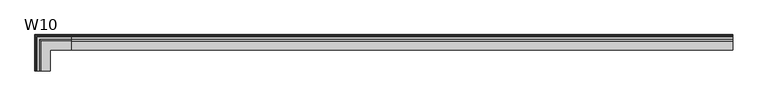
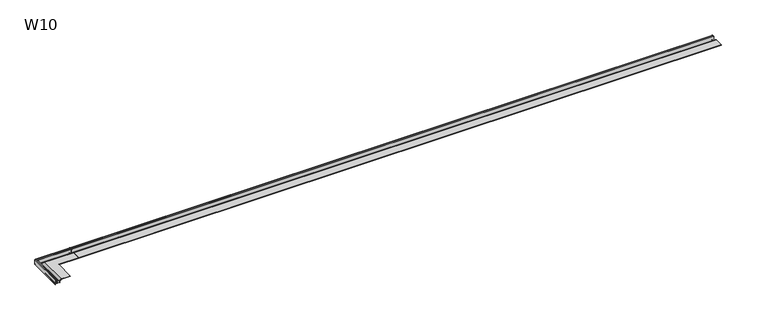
"""IFC4 building model written with IfcOpenShell, lengths in millimetres: proxy geometry, W10 Profil okapowy prosty : W10."""

from ifc_helpers import new_model, si_unit, point, frame, frame_2d, origin, place, context, project, spatial, polyline, circle_curve, ellipse_curve, trimmed, segment, composite_curve, outline, extrude, source, transform, mapped, element, save
from ifc_brep_helpers import plane_surface, cylinder_surface, revolved_surface, advanced_brep


def w10_debb7198(model_context):
    return source(origin(), model_context, "Body", "SolidModel", [
        advanced_brep(
        [(210.0, 44.56, -27.6922578), (210.0, 44.56, 9.4246509), (210.0, 43.1073683, 11.223413), (210.0, 42.8536246, 10.034885), (210.0, 43.3599998, 9.4089901), (210.0, 43.3599998, -1.26), (210.0, 40.9599998, -1.26), (210.0, 40.9599998, -2.62), (210.0, 43.3599998, -2.62), (210.0, 43.3599998, -15.6), (210.0, 40.7999998, -15.6), (210.0, 40.7999998, -16.8), (210.0, 43.3599998, -16.8), (210.0, 43.3599998, -20.0), (210.0, 32.3999998, -20.0), (210.0, 32.3999998, 8.6705848), (210.0, 31.1999998, 8.6705848), (210.0, 31.1999998, -20.0), (210.0, 12.3999998, -20.0), (210.0, 12.3999998, -13.6), (210.0, -1.2000002, 0.0), (210.0, -63.8400002, 0.0), (210.0, -63.8400002, -1.92), (210.0, 0.1599998, -1.92), (210.0, 0.1599998, -5.76), (210.0, 1.1999998, -5.76), (210.0, 1.1999998, -2.1733833), (210.0, 10.4799998, -13.6), (210.0, 10.4799998, -24.3057388), (210.0, 11.6799998, -25.0468739), (210.0, 11.6799998, -21.92), (210.0, 43.3599999, -21.92), (210.0, 43.3599999, -26.4922579), (-44.56, -210.0, -27.6922578), (-43.3599999, -210.0, -26.4922579), (-43.3599999, -210.0, -21.92), (-11.6799998, -210.0, -21.92), (-11.6799998, -210.0, -25.0468739), (-10.4799998, -210.0, -24.3057388), (-10.4799998, -210.0, -13.6), (-1.1999998, -210.0, -2.1733833), (-1.1999998, -210.0, -5.76), (-0.1599998, -210.0, -5.76), (-0.1599998, -210.0, -1.92), (63.8400002, -210.0, -1.92), (63.8400002, -210.0, 0.0), (1.2000002, -210.0, 0.0), (-12.3999998, -210.0, -13.6), (-12.3999998, -210.0, -20.0), (-31.1999998, -210.0, -20.0), (-31.1999998, -210.0, 8.6705848), (-32.3999998, -210.0, 8.6705848), (-32.3999998, -210.0, -20.0), (-43.3599998, -210.0, -20.0), (-43.3599998, -210.0, -16.8), (-40.7999998, -210.0, -16.8), (-40.7999998, -210.0, -15.6), (-43.3599998, -210.0, -15.6), (-43.3599998, -210.0, -2.62), (-40.9599998, -210.0, -2.62), (-40.9599998, -210.0, -1.26), (-43.3599998, -210.0, -1.26), (-43.3599998, -210.0, 9.4089901), (-42.8536246, -210.0, 10.034885), (-43.1073683, -210.0, 11.223413), (-44.56, -210.0, 9.4246509), (-43.3599999, 43.3599999, -26.4922579), (-44.56, 44.56, -27.6922578), (63.8400002, -63.8400002, 0.0), (63.8400002, -63.8400002, -1.92), (-0.1599998, 0.1599998, -1.92), (-1.1999998, 1.1999998, -2.1733833), (-10.4799998, 10.4799998, -13.6), (-10.4799998, 10.4799998, -24.3057388), (-11.6799998, 11.6799998, -25.0468739), (-11.6799998, 11.6799998, -21.92), (-43.3599999, 43.3599999, -21.92), (-44.56, 44.56, 9.4246509), (-1.1999998, 1.1999998, -5.76), (-0.1599998, 0.1599998, -5.76), (1.2000002, -1.2000002, 0.0), (-12.3999998, 12.3999998, -13.6), (-12.3999998, 12.3999998, -20.0), (-31.1999998, 31.1999998, -20.0), (-31.1999998, 31.1999998, 8.6705848), (-32.3999998, 32.3999998, 8.6705848), (-32.3999998, 32.3999998, -20.0), (-43.3599998, 43.3599998, -20.0), (-43.3599998, 43.3599998, -16.8), (-40.7999998, 40.7999998, -16.8), (-40.7999998, 40.7999998, -15.6), (-43.3599998, 43.3599998, -15.6), (-43.3599998, 43.3599998, -2.62), (-40.9599998, 40.9599998, -2.62), (-40.9599998, 40.9599998, -1.26), (-43.3599998, 43.3599998, -1.26), (-43.3599998, 43.3599998, 9.4089901), (-42.8536246, 42.8536246, 10.034885), (-43.1073683, 43.1073683, 11.223413)],
        [
            (0, 1),
            (1, 2, circle_curve(frame((210.0, 42.7200002, 9.4246509), z_axis=(1.0, 0.0, 0.0), x_axis=(0.0, -1.0, 0.0)), 1.8399998)),
            (2, 3),
            (3, 4, circle_curve(frame((210.0, 42.7199998, 9.4089901), z_axis=(-1.0, 0.0, 0.0), x_axis=(0.0, -1.0, 0.0)), 0.64)),
            (4, 5),
            (5, 6),
            (6, 7),
            (7, 8),
            (8, 9),
            (9, 10),
            (10, 11),
            (11, 12),
            (12, 13),
            (13, 14),
            (14, 15),
            (15, 16),
            (16, 17),
            (17, 18),
            (18, 19),
            (19, 20, circle_curve(frame((210.0, -1.2000002, -13.6), z_axis=(1.0, 0.0, 0.0), x_axis=(0.0, -1.0, 0.0)), 13.6)),
            (20, 21),
            (21, 22),
            (22, 23),
            (23, 24),
            (24, 25),
            (25, 26),
            (26, 27, circle_curve(frame((210.0, -1.1910212, -13.5968574), z_axis=(-1.0, 0.0, 0.0), x_axis=(0.0, -1.0, 0.0)), 11.6710215)),
            (27, 28),
            (28, 29),
            (29, 30),
            (30, 31),
            (31, 32),
            (32, 0),
            (33, 34),
            (34, 35),
            (35, 36),
            (36, 37),
            (37, 38),
            (38, 39),
            (39, 40, circle_curve(frame((1.1910212, -210.0, -13.5968574), z_axis=(0.0, 1.0, 0.0), x_axis=(1.0, 0.0, 0.0)), 11.6710215)),
            (40, 41),
            (41, 42),
            (42, 43),
            (43, 44),
            (44, 45),
            (45, 46),
            (46, 47, circle_curve(frame((1.2000002, -210.0, -13.6), z_axis=(0.0, -1.0, 0.0), x_axis=(1.0, 0.0, 0.0)), 13.6)),
            (47, 48),
            (48, 49),
            (49, 50),
            (50, 51),
            (51, 52),
            (52, 53),
            (53, 54),
            (54, 55),
            (55, 56),
            (56, 57),
            (57, 58),
            (58, 59),
            (59, 60),
            (60, 61),
            (61, 62),
            (62, 63, circle_curve(frame((-42.7199998, -210.0, 9.4089901), z_axis=(0.0, 1.0, 0.0), x_axis=(1.0, 0.0, 0.0)), 0.64)),
            (63, 64),
            (64, 65, circle_curve(frame((-42.7200002, -210.0, 9.4246509), z_axis=(0.0, -1.0, 0.0), x_axis=(1.0, 0.0, 0.0)), 1.8399998)),
            (65, 33),
            (32, 66),
            (66, 67),
            (67, 0),
            (21, 68),
            (68, 69),
            (69, 22),
            (69, 44),
            (43, 70),
            (70, 23),
            (26, 71),
            (71, 72, ellipse_curve(frame((1.1910212, -1.1910212, -13.5968574), z_axis=(-0.7071067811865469, -0.707106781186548, 0.0), x_axis=(-0.7071067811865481, 0.7071067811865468, 0.0)), 16.5053168, 11.6710215)),
            (72, 27),
            (72, 73),
            (73, 28),
            (73, 74),
            (74, 29),
            (74, 75),
            (75, 30),
            (75, 36),
            (35, 76),
            (76, 31),
            (76, 66),
            (67, 77),
            (77, 1),
            (66, 34),
            (33, 67),
            (68, 45),
            (71, 40),
            (39, 72),
            (38, 73),
            (37, 74),
            (65, 77),
            (25, 78),
            (78, 71),
            (24, 79),
            (79, 42),
            (41, 78),
            (70, 79),
            (20, 80),
            (80, 46),
            (19, 81),
            (81, 80, ellipse_curve(frame((1.2000002, -1.2000002, -13.6), z_axis=(0.7071067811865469, 0.707106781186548, 0.0), x_axis=(0.7071067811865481, -0.7071067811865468, 0.0)), 19.2333044, 13.6)),
            (18, 82),
            (82, 81),
            (17, 83),
            (83, 49),
            (48, 82),
            (16, 84),
            (84, 83),
            (15, 85),
            (85, 51),
            (50, 84),
            (14, 86),
            (86, 85),
            (13, 87),
            (87, 53),
            (52, 86),
            (12, 88),
            (88, 87),
            (11, 89),
            (89, 55),
            (54, 88),
            (10, 90),
            (90, 89),
            (9, 91),
            (91, 57),
            (56, 90),
            (8, 92),
            (92, 91),
            (7, 93),
            (93, 59),
            (58, 92),
            (6, 94),
            (94, 93),
            (5, 95),
            (95, 61),
            (60, 94),
            (4, 96),
            (96, 95),
            (3, 97),
            (97, 96, ellipse_curve(frame((-42.7199998, 42.7199998, 9.4089901), z_axis=(-0.7071067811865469, -0.707106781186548, 0.0), x_axis=(-0.7071067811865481, 0.7071067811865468, 0.0)), 0.9050966, 0.64)),
            (2, 98),
            (98, 97),
            (77, 98, ellipse_curve(frame((-42.7200002, 42.7200002, 9.4246509), z_axis=(0.7071067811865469, 0.707106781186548, 0.0), x_axis=(0.7071067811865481, -0.7071067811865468, 0.0)), 2.6021527, 1.8399998)),
            (81, 47),
            (96, 62),
            (97, 63),
            (98, 64),
        ],
        [
            plane_surface(frame((210.0, 0.0, 1.5241588), z_axis=(1.0, 0.0, 0.0), x_axis=(0.0, 0.0, 1.0))),
            plane_surface(frame((0.0, -210.0, 1.5241588), z_axis=(0.0, -1.0, 0.0), x_axis=(0.0, 0.0, 1.0))),
            plane_surface(frame((210.0, 44.56, -27.6922578), z_axis=(0.0, -0.7071067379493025, -0.70710682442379), x_axis=(-1.0, 0.0, 0.0))),
            plane_surface(frame((210.0, -63.8400002, -1.92), z_axis=(0.0, -1.0, 0.0), x_axis=(-1.0, 0.0, 0.0))),
            plane_surface(frame((210.0, 0.1599998, -1.92), z_axis=(0.0, 0.0, -1.0), x_axis=(-1.0, 0.0, 0.0))),
            revolved_surface(polyline([(-10.480000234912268, -12.8620427, -13.5968574), (210.0, -12.8620427, -13.5968574)]), (210.0, -1.1910212, -13.5968574), (-1.0, 0.0, 0.0)),
            plane_surface(frame((210.0, 10.4799998, -24.3057388), z_axis=(0.0, -1.0, 0.0), x_axis=(-1.0, 0.0, 0.0))),
            plane_surface(frame((210.0, 11.6799998, -25.0468739), z_axis=(0.0, -0.5254716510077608, -0.8508111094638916), x_axis=(-1.0, 0.0, 0.0))),
            plane_surface(frame((210.0, 11.6799998, -21.92), z_axis=(0.0, 1.0, 0.0), x_axis=(-1.0, 0.0, 0.0))),
            plane_surface(frame((210.0, 43.3599999, -21.92), z_axis=(0.0, 0.0, -1.0), x_axis=(-1.0, 0.0, 0.0))),
            plane_surface(frame((210.0, 43.3599999, -26.4922579), z_axis=(0.0, -1.0, 0.0), x_axis=(-1.0, 0.0, 0.0))),
            plane_surface(frame((210.0, 44.56, 9.4246509), z_axis=(0.0, 1.0, 0.0), x_axis=(-1.0, 0.0, 0.0))),
            plane_surface(frame((-44.56, 44.56, -27.6922578), z_axis=(0.7071067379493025, 0.0, -0.70710682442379), x_axis=(0.0, -1.0, 0.0))),
            plane_surface(frame((63.8400002, -63.8400002, -1.92), z_axis=(1.0, 0.0, 0.0), x_axis=(0.0, -1.0, 0.0))),
            revolved_surface(polyline([(12.8620427, -210.0, -13.5968574), (12.8620427, 10.480000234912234, -13.5968574)]), (1.1910212, 0.0, -13.5968574), (0.0, -1.0, 0.0)),
            plane_surface(frame((-10.4799998, 10.4799998, -24.3057388), z_axis=(1.0, 0.0, 0.0), x_axis=(0.0, -1.0, 0.0))),
            plane_surface(frame((-11.6799998, 11.6799998, -25.0468739), z_axis=(0.5254716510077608, 0.0, -0.8508111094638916), x_axis=(0.0, -1.0, 0.0))),
            plane_surface(frame((-11.6799998, 11.6799998, -21.92), z_axis=(-1.0, 0.0, 0.0), x_axis=(0.0, -1.0, 0.0))),
            plane_surface(frame((-43.3599999, 43.3599999, -26.4922579), z_axis=(1.0, 0.0, 0.0), x_axis=(0.0, -1.0, 0.0))),
            plane_surface(frame((-44.56, 44.56, 9.4246509), z_axis=(-1.0, 0.0, 0.0), x_axis=(0.0, -1.0, 0.0))),
            plane_surface(frame((210.0, 1.1999998, -2.1733833), z_axis=(0.0, 1.0, 0.0), x_axis=(-1.0, 0.0, 0.0))),
            plane_surface(frame((210.0, 1.1999998, -5.76), z_axis=(0.0, 0.0, -1.0), x_axis=(-1.0, 0.0, 0.0))),
            plane_surface(frame((210.0, 0.1599998, -5.76), z_axis=(0.0, -1.0, 0.0), x_axis=(-1.0, 0.0, 0.0))),
            plane_surface(frame((210.0, -63.8400002, 0.0), z_axis=(0.0, 0.0, 1.0), x_axis=(-1.0, 0.0, 0.0))),
            cylinder_surface(frame((210.0, -1.2000002, -13.6), z_axis=(1.0, 0.0, 0.0), x_axis=(0.0, -1.0, 0.0)), 13.6),
            plane_surface(frame((210.0, 12.3999998, -13.6), z_axis=(0.0, 1.0, 0.0), x_axis=(-1.0, 0.0, 0.0))),
            plane_surface(frame((210.0, 12.3999998, -20.0), z_axis=(0.0, 0.0, 1.0), x_axis=(-1.0, 0.0, 0.0))),
            plane_surface(frame((210.0, 31.1999998, -20.0), z_axis=(0.0, -1.0, 0.0), x_axis=(-1.0, 0.0, 0.0))),
            plane_surface(frame((210.0, 31.1999998, 8.6705848), z_axis=(0.0, 0.0, 1.0), x_axis=(-1.0, 0.0, 0.0))),
            plane_surface(frame((210.0, 32.3999998, 8.6705848), z_axis=(0.0, 1.0, 0.0), x_axis=(-1.0, 0.0, 0.0))),
            plane_surface(frame((210.0, 32.3999998, -20.0), z_axis=(0.0, 0.0, 1.0), x_axis=(-1.0, 0.0, 0.0))),
            plane_surface(frame((210.0, 43.3599998, -20.0), z_axis=(0.0, -1.0, 0.0), x_axis=(-1.0, 0.0, 0.0))),
            plane_surface(frame((210.0, 43.3599998, -16.8), z_axis=(0.0, 0.0, -1.0), x_axis=(-1.0, 0.0, 0.0))),
            plane_surface(frame((210.0, 40.7999998, -16.8), z_axis=(0.0, -1.0, 0.0), x_axis=(-1.0, 0.0, 0.0))),
            plane_surface(frame((210.0, 40.7999998, -15.6), z_axis=(0.0, 0.0, 1.0), x_axis=(-1.0, 0.0, 0.0))),
            plane_surface(frame((210.0, 43.3599998, -15.6), z_axis=(0.0, -1.0, 0.0), x_axis=(-1.0, 0.0, 0.0))),
            plane_surface(frame((210.0, 43.3599998, -2.62), z_axis=(0.0, 0.0, -1.0), x_axis=(-1.0, 0.0, 0.0))),
            plane_surface(frame((210.0, 40.9599998, -2.62), z_axis=(0.0, -1.0, 0.0), x_axis=(-1.0, 0.0, 0.0))),
            plane_surface(frame((210.0, 40.9599998, -1.26), z_axis=(0.0, 0.0, 1.0), x_axis=(-1.0, 0.0, 0.0))),
            plane_surface(frame((210.0, 43.3599998, -1.26), z_axis=(0.0, -1.0, 0.0), x_axis=(-1.0, 0.0, 0.0))),
            revolved_surface(polyline([(-43.3599998, 42.079999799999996, 9.4089901), (210.0, 42.079999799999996, 9.4089901)]), (210.0, 42.7199998, 9.4089901), (-1.0, 0.0, 0.0)),
            plane_surface(frame((210.0, 42.8536246, 10.034885), z_axis=(0.0, -0.9779607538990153, 0.20878880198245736), x_axis=(-1.0, 0.0, 0.0))),
            cylinder_surface(frame((210.0, 42.7200002, 9.4246509), z_axis=(1.0, 0.0, 0.0), x_axis=(0.0, -1.0, 0.0)), 1.8399998),
            plane_surface(frame((-1.1999998, 1.1999998, -2.1733833), z_axis=(-1.0, 0.0, 0.0), x_axis=(0.0, -1.0, 0.0))),
            plane_surface(frame((-0.1599998, 0.1599998, -5.76), z_axis=(1.0, 0.0, 0.0), x_axis=(0.0, -1.0, 0.0))),
            cylinder_surface(frame((1.2000002, 0.0, -13.6), z_axis=(0.0, 1.0, 0.0), x_axis=(1.0, 0.0, 0.0)), 13.6),
            plane_surface(frame((-12.3999998, 12.3999998, -13.6), z_axis=(-1.0, 0.0, 0.0), x_axis=(0.0, -1.0, 0.0))),
            plane_surface(frame((-31.1999998, 31.1999998, -20.0), z_axis=(1.0, 0.0, 0.0), x_axis=(0.0, -1.0, 0.0))),
            plane_surface(frame((-32.3999998, 32.3999998, 8.6705848), z_axis=(-1.0, 0.0, 0.0), x_axis=(0.0, -1.0, 0.0))),
            plane_surface(frame((-43.3599998, 43.3599998, -20.0), z_axis=(1.0, 0.0, 0.0), x_axis=(0.0, -1.0, 0.0))),
            plane_surface(frame((-40.7999998, 40.7999998, -16.8), z_axis=(1.0, 0.0, 0.0), x_axis=(0.0, -1.0, 0.0))),
            plane_surface(frame((-43.3599998, 43.3599998, -15.6), z_axis=(1.0, 0.0, 0.0), x_axis=(0.0, -1.0, 0.0))),
            plane_surface(frame((-40.9599998, 40.9599998, -2.62), z_axis=(1.0, 0.0, 0.0), x_axis=(0.0, -1.0, 0.0))),
            plane_surface(frame((-43.3599998, 43.3599998, -1.26), z_axis=(1.0, 0.0, 0.0), x_axis=(0.0, -1.0, 0.0))),
            revolved_surface(polyline([(-42.079999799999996, -210.0, 9.4089901), (-42.079999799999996, 43.3599998, 9.4089901)]), (-42.7199998, 0.0, 9.4089901), (0.0, -1.0, 0.0)),
            plane_surface(frame((-42.8536246, 42.8536246, 10.034885), z_axis=(0.9779607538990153, 0.0, 0.20878880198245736), x_axis=(0.0, -1.0, 0.0))),
            cylinder_surface(frame((-42.7200002, 0.0, 9.4246509), z_axis=(0.0, 1.0, 0.0), x_axis=(1.0, 0.0, 0.0)), 1.8399998),
        ],
        [
            (0, [[1, 2, 3, 4, 5, 6, 7, 8, 9, 10, 11, 12, 13, 14, 15, 16, 17, 18, 19, 20, 21, 22, 23, 24, 25, 26, 27, 28, 29, 30, 31, 32, 33]]),
            (1, [[34, 35, 36, 37, 38, 39, 40, 41, 42, 43, 44, 45, 46, 47, 48, 49, 50, 51, 52, 53, 54, 55, 56, 57, 58, 59, 60, 61, 62, 63, 64, 65, 66]]),
            (2, [[67, 68, 69, -33]]),
            (3, [[70, 71, 72, -22]]),
            (4, [[-72, 73, -44, 74, 75, -23]]),
            (5, [[76, 77, 78, -27]]),
            (6, [[-78, 79, 80, -28]]),
            (7, [[-80, 81, 82, -29]]),
            (8, [[-82, 83, 84, -30]]),
            (9, [[-84, 85, -36, 86, 87, -31]]),
            (10, [[-87, 88, -67, -32]]),
            (11, [[-69, 89, 90, -1]]),
            (12, [[91, -34, 92, -68]]),
            (13, [[93, -45, -73, -71]]),
            (14, [[94, -40, 95, -77]]),
            (15, [[-95, -39, 96, -79]]),
            (16, [[-96, -38, 97, -81]]),
            (17, [[-97, -37, -85, -83]]),
            (18, [[-86, -35, -91, -88]]),
            (19, [[-92, -66, 98, -89]]),
            (20, [[99, 100, -76, -26]]),
            (21, [[101, 102, -42, 103, -99, -25]]),
            (22, [[-75, 104, -101, -24]]),
            (23, [[105, 106, -46, -93, -70, -21]]),
            (24, [[107, 108, -105, -20]]),
            (25, [[109, 110, -107, -19]]),
            (26, [[111, 112, -49, 113, -109, -18]]),
            (27, [[114, 115, -111, -17]]),
            (28, [[116, 117, -51, 118, -114, -16]]),
            (29, [[119, 120, -116, -15]]),
            (30, [[121, 122, -53, 123, -119, -14]]),
            (31, [[124, 125, -121, -13]]),
            (32, [[126, 127, -55, 128, -124, -12]]),
            (33, [[129, 130, -126, -11]]),
            (34, [[131, 132, -57, 133, -129, -10]]),
            (35, [[134, 135, -131, -9]]),
            (36, [[136, 137, -59, 138, -134, -8]]),
            (37, [[139, 140, -136, -7]]),
            (38, [[141, 142, -61, 143, -139, -6]]),
            (39, [[144, 145, -141, -5]]),
            (40, [[146, 147, -144, -4]]),
            (41, [[148, 149, -146, -3]]),
            (42, [[-90, 150, -148, -2]]),
            (43, [[-103, -41, -94, -100]]),
            (44, [[-74, -43, -102, -104]]),
            (45, [[151, -47, -106, -108]]),
            (46, [[-113, -48, -151, -110]]),
            (47, [[-118, -50, -112, -115]]),
            (48, [[-123, -52, -117, -120]]),
            (49, [[-128, -54, -122, -125]]),
            (50, [[-133, -56, -127, -130]]),
            (51, [[-138, -58, -132, -135]]),
            (52, [[-143, -60, -137, -140]]),
            (53, [[152, -62, -142, -145]]),
            (54, [[153, -63, -152, -147]]),
            (55, [[154, -64, -153, -149]]),
            (56, [[-98, -65, -154, -150]]),
        ],
    ),
        extrude(outline(composite_curve([segment(polyline([(44.56, -27.6922578), (43.3599999, -26.4922579), (43.3599999, -21.92), (11.6799998, -21.92), (11.6799998, -25.0468739), (10.4799998, -24.3057388), (10.4799998, -13.6)]), True, "CONTINUOUS"), segment(trimmed(circle_curve(frame_2d((-1.1910212, -13.5968574)), 11.6710215), [point((10.4799998, -13.6))], [point((1.1999998, -2.1733833))], True, "CARTESIAN"), True, "CONTINUOUS"), segment(polyline([(1.1999998, -2.1733833), (1.1999998, -5.76), (0.1599998, -5.76), (0.1599998, -1.92), (-63.8400002, -1.92), (-63.8400002, 0.0), (-1.2000002, 0.0)]), True, "CONTINUOUS"), segment(trimmed(circle_curve(frame_2d((-1.2000002, -13.6)), 13.6), [point((-1.2000002, 0.0))], [point((12.3999998, -13.6))], False, "CARTESIAN"), True, "CONTINUOUS"), segment(polyline([(12.3999998, -13.6), (12.3999998, -20.0), (31.1999998, -20.0), (31.1999998, 8.6705848), (32.3999998, 8.6705848), (32.3999998, -20.0), (43.3599998, -20.0), (43.3599998, -16.8), (40.7999998, -16.8), (40.7999998, -15.6), (43.3599998, -15.6), (43.3599998, -2.62), (40.9599998, -2.62), (40.9599998, -1.26), (43.3599998, -1.26), (43.3599998, 9.4089901)]), True, "CONTINUOUS"), segment(trimmed(circle_curve(frame_2d((42.7199998, 9.4089901)), 0.64), [point((43.3599998, 9.4089901))], [point((42.8536246, 10.034885))], True, "CARTESIAN"), True, "CONTINUOUS"), segment(polyline([(42.8536246, 10.034885), (43.1073683, 11.223413)]), True, "CONTINUOUS"), segment(trimmed(circle_curve(frame_2d((42.7200002, 9.4246509)), 1.8399998), [point((43.1073683, 11.223413))], [point((44.56, 9.4246509))], False, "CARTESIAN"), True, "CONTINUOUS"), segment(polyline([(44.56, 9.4246509), (44.56, -27.6922578)]), True, "CONTINUOUS")], self_intersect=False)), frame((210.0, 0.0, 0.0), z_axis=(1.0, 0.0, 0.0), x_axis=(0.0, 1.0, 0.0)), (0.0, 0.0, 1.0), 4654.0609101),
    ])


if __name__ == "__main__":
    model = new_model("IFC4")
    model_context = context("Model", 3, world=origin())
    ifc_project = project(units=[si_unit("LENGTHUNIT", "METRE", prefix="MILLI")], contexts=[model_context])
    site = spatial("IfcSite", under=ifc_project)
    building = spatial("IfcBuilding", under=site)
    placement = place(None, origin())
    w10_shape = w10_debb7198(model_context)
    element("IfcBuildingElementProxy", 1, Name="W10 Profil okapowy prosty : W10", ObjectType="W10 Profil okapowy prosty : W10", at=placement, inside=building, context=model_context, shape_type="MappedRepresentation", body=[
        mapped(w10_shape, transform((0.0, 0.0, 0.0), x_axis=(1.0, 0.0, 0.0), y_axis=(0.0, 1.0, 0.0), z_axis=(0.0, 0.0, 1.0))),
    ])
    save(model, "model.ifc")
